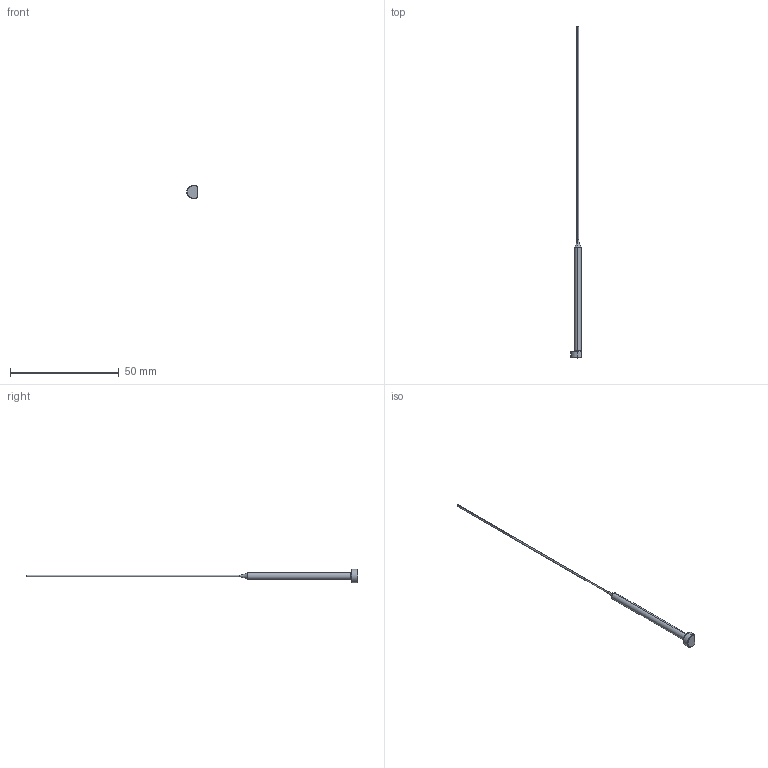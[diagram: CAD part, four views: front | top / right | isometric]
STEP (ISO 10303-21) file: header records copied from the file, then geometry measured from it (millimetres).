
FILE_DESCRIPTION (( 'STEP AP203' ), '1' );
FILE_NAME ('EP031L6-20-K.step', '2022-04-01T20:55:50', ( 'Microsoft Corporation' ), ( 'MS' ), 'SwSTEP 2.0', 'SolidWorks 2019', '' );
FILE_SCHEMA (( 'CONFIG_CONTROL_DESIGN' ));
Length unit declared in the file: inch
Products named in the file (1): EP031L6-20-K
Bounding box: 4.76 x 152.4 x 6.35 mm (x, y, z)
Volume: 514 mm3; surface area: 836.7 mm2
Topology: 1 solids, 1 shells, 22 faces, 49 edges, 29 vertices
Faces by surface type: cylinder 7, cone 6, torus 5, plane 4
Entity records: 702 total; most frequent: CARTESIAN_POINT 123, DIRECTION 117, ORIENTED_EDGE 98, AXIS2_PLACEMENT_3D 51, EDGE_CURVE 49, VERTEX_POINT 29, CIRCLE 28, EDGE_LOOP 22
